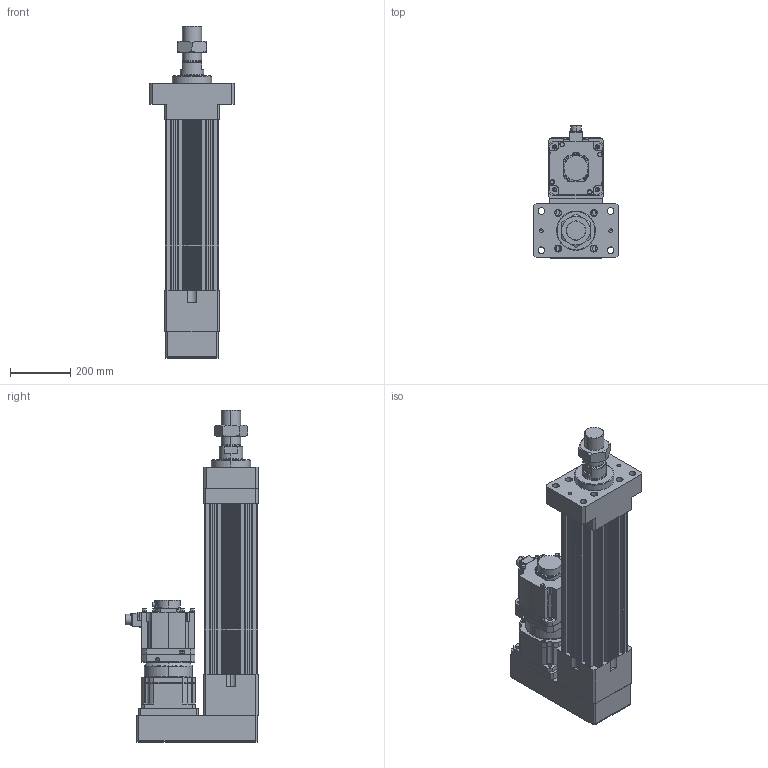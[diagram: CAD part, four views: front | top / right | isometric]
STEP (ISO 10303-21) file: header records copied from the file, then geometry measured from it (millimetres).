
FILE_DESCRIPTION (( 'STEP AP203' ), '1' );
FILE_NAME ('HES180HS-P250-W050G00-M-FMA.STEP', '2023-02-01T07:55:14', ( 'tms' ), ( '' ), 'SwSTEP 2.0', 'SolidWorks 2013', '' );
FILE_SCHEMA (( 'CONFIG_CONTROL_DESIGN' ));
Length unit declared in the file: millimetre
Products named in the file (9): HES180HS-P250-W050G00-M-FMA; M64X2.0P; HG-SR502; HES180-P250-G180-FMA; P1301600001; AB180-003[HG-SR702B]; AB1801; P0403600401; HES180 ROD M ST250
Assembly tree (8 placements, depth 3):
  HES180HS-P250-W050G00-M-FMA
    HES180-P250-G180-FMA
    HES180 ROD M ST250
    M64X2.0P
    AB180-003[HG-SR702B]
      AB1801
      P1301600001
      P0403600401
    HG-SR502
Bounding box: 280 x 438.85 x 1102 mm (x, y, z)
Volume: 26856633 mm3; surface area: 2216797.8 mm2
Topology: 4 solids, 19 shells, 1431 faces, 3715 edges, 2410 vertices
Faces by surface type: cylinder 663, plane 555, cone 146, bspline 63, torus 4
Entity records: 52578 total; most frequent: CARTESIAN_POINT 15982, DIRECTION 7693, ORIENTED_EDGE 7330, EDGE_CURVE 3689, AXIS2_PLACEMENT_3D 2901, VERTEX_POINT 2410, LINE 1891, VECTOR 1891
